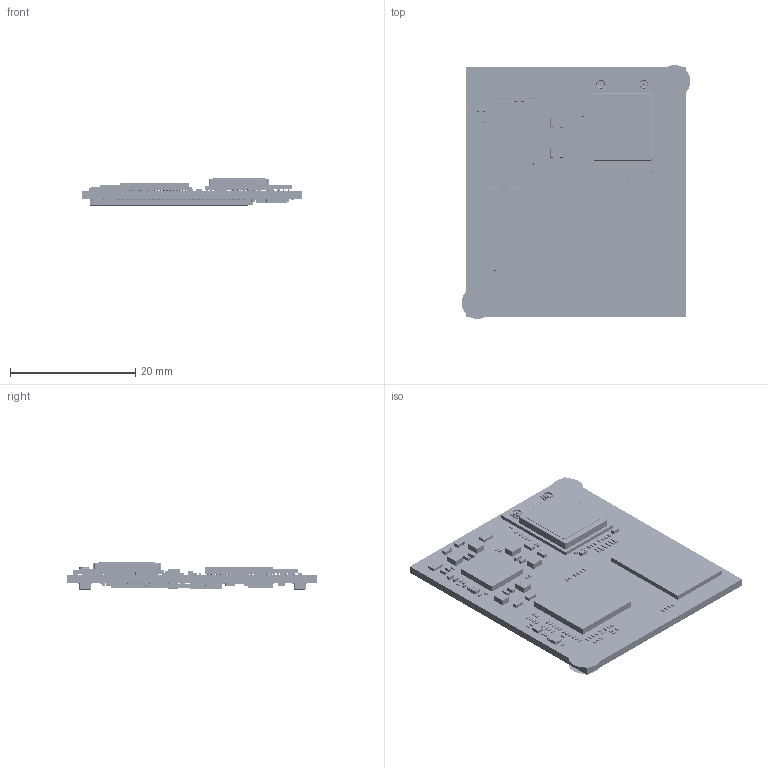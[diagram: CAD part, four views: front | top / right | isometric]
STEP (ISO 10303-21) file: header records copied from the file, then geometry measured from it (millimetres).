
FILE_DESCRIPTION(/* description */ ('PCB Design'),/* implementation_level */ '2;1');
FILE_NAME(/* name */ 'PICOCOREMX93_REV110',/* time_stamp */ '2024-04-18T14:44:56+02:00',/* author */ (''),/* organization */ (''),/* preprocessor_version */ 'ST-DEVELOPER v16',/* originating_system */ 'allegro_22.1S005',/* authorisation */ '');
FILE_SCHEMA (('AUTOMOTIVE_DESIGN { 1 0 10303 214 3 1 1 }'));
Products named in the file (181): PICOCOREMX93_REV110; BOARD_OUTLINE; COMPONENTS; FS_QFN24_0P5_4X4; FS_PRD_1X1_SMD_SMALL; FS_UFDFN6_0P5_1P45X1; FS_L0402; FS_WLCSP4_0P4_0P8X0P8; FS_DFN2626-10_2P6X2P6; FS_QFN40_0P4_5X5; FS_QFN32_0P5_5X5; FS_XTAL_4-2X1P6; FS_BGA153_0P5_11P5X13; FS_FIDUCIAL_100; FS_XTAL_2-2P05X1P2; FS_R0201; FS_R0805; FS_L0806; FS_C0402; FS_C0201; FS_C04502; FS_C0603; FS_QFN56_0P4_7X7; FS_MOD_UB-MAYA_W26X; FS_BGA200_0P65_10X15; FS_BGA306_0P5_11X11; FS_J_0P4_100POS_DF40C_DP; FS_MECH_MH230C460; Volumenkörper; Volumenkörper1; fs_ufdfn6_0p5_1p45x1; BODY-SON; DRY0006A-prt1; ??????????2; fs_wlcsp4_0p4_0p77x0p77; Body; Pins; fs_dfn2626-10_2p6x2p6; ThermalPin; PinsArrayLR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
Assembly tree (863 placements, depth 6):
  PICOCOREMX93_REV110
    BOARD_OUTLINE
    COMPONENTS
      FS_QFN24_0P5_4X4
        Volumenkörper
      FS_PRD_1X1_SMD_SMALL  x14
        Volumenkörper1
      FS_UFDFN6_0P5_1P45X1
        fs_ufdfn6_0p5_1p45x1
          BODY-SON
          DRY0006A-prt1
      FS_L0402
        ??????????2
      FS_WLCSP4_0P4_0P8X0P8
        fs_wlcsp4_0p4_0p77x0p77
          Body
          Pins
      FS_DFN2626-10_2P6X2P6
        fs_dfn2626-10_2p6x2p6
          Body
          ThermalPin
          PinsArrayLR
      FS_QFN40_0P4_5X5  x2
        Oberfläche
      FS_QFN32_0P5_5X5
        fs_qfn32_0p5_5x5
          Component1
          Component2
          Component3
          Component4
          Component5
          Component6
          Component7
          Component8
          Component9
          Component10
          Component11
          Component12
          Component13
          Component14
          Component15
          Component16
          Component17
          Component18
          Component19
          Component20
          Component21
          Component22
          Component23
          Component24
          Component25
          Component26
          Component27
          Component28
          Component29
          Component30
          Component31
          Component32
          Component33
          Component34
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Bounding box: 36.54 x 40.52 x 4.36 mm (x, y, z)
Volume: 771.2 mm3; surface area: 6488.4 mm2
Topology: 1010 solids, 1019 shells, 22621 faces, 57086 edges, 34639 vertices
Faces by surface type: plane 14889, cylinder 5194, sphere 2406, bspline 80, cone 48, torus 4
Entity records: 208930 total; most frequent: CARTESIAN_POINT 28208, DIRECTION 26988, ORIENTED_EDGE 24742, EDGE_CURVE 12376, AXIS2_PLACEMENT_3D 9450, VECTOR 8863, LINE 8863, VERTEX_POINT 8260
